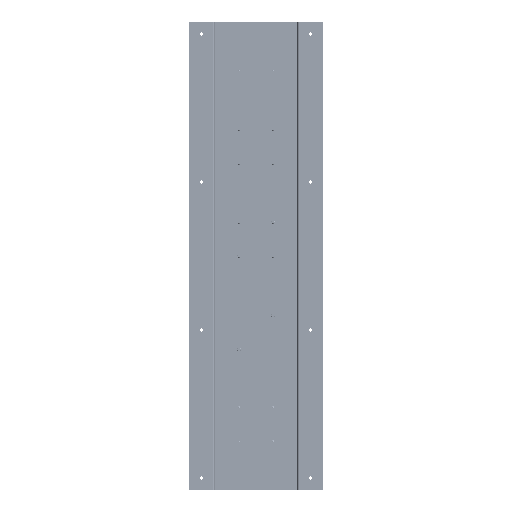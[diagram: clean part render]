
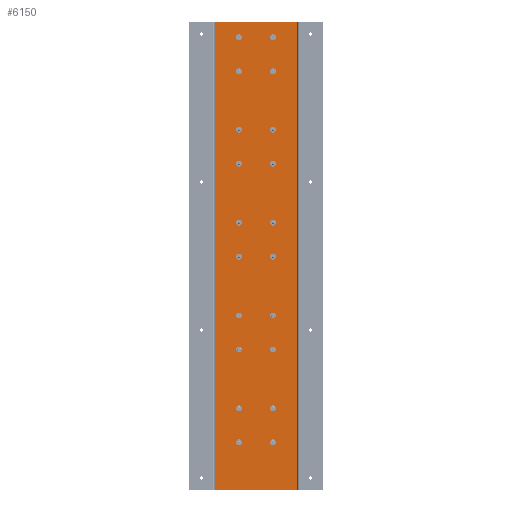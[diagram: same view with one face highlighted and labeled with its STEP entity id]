
A CAD part, front view. The second image highlights one B-rep face of the part: STEP entity #6150.
In plain terms, the highlighted planar face has unit normal (0, -1, 0).
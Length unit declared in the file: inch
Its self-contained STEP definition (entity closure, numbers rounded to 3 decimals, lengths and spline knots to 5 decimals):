
#6150 = ADVANCED_FACE ( 'NONE', ( #123281 ), #227708, .F. ) ;
#15054 = DIRECTION ( 'NONE',  ( 0., 1., 0. ) ) ;
#21622 = VERTEX_POINT ( 'NONE', #85476 ) ;
#23982 = ORIENTED_EDGE ( 'NONE', *, *, #48019, .F. ) ;
#28557 = ORIENTED_EDGE ( 'NONE', *, *, #33636, .T. ) ;
#33334 = CARTESIAN_POINT ( 'NONE',  ( 5.025, 5.125, 45. ) ) ;
#33636 = EDGE_CURVE ( 'NONE', #217864, #213585, #56719, .T. ) ;
#41384 = CARTESIAN_POINT ( 'NONE',  ( 5.125, 5.125, 45. ) ) ;
#47230 = VERTEX_POINT ( 'NONE', #33334 ) ;
#48019 = EDGE_CURVE ( 'NONE', #217864, #47230, #147458, .T. ) ;
#48966 = CARTESIAN_POINT ( 'NONE',  ( 5.025, 5.125, 45. ) ) ;
#52346 = ORIENTED_EDGE ( 'NONE', *, *, #152013, .T. ) ;
#52629 = CARTESIAN_POINT ( 'NONE',  ( -5.025, 5.125, 45. ) ) ;
#52990 = VECTOR ( 'NONE', #147717, 39.37008 ) ;
#56719 = LINE ( 'NONE', #160081, #176034 ) ;
#85476 = CARTESIAN_POINT ( 'NONE',  ( 5.025, 5.125, -13. ) ) ;
#103634 = CARTESIAN_POINT ( 'NONE',  ( 5.125, 5.125, 45. ) ) ;
#123018 = LINE ( 'NONE', #180356, #211795 ) ;
#123281 = FACE_OUTER_BOUND ( 'NONE', #130593, .T. ) ;
#130593 = EDGE_LOOP ( 'NONE', ( #28557, #52346, #193892, #23982 ) ) ;
#139303 = DIRECTION ( 'NONE',  ( -1., 0., 0. ) ) ;
#142962 = DIRECTION ( 'NONE',  ( 0., 0., -1. ) ) ;
#147342 = EDGE_CURVE ( 'NONE', #47230, #21622, #224999, .T. ) ;
#147458 = LINE ( 'NONE', #41384, #52990 ) ;
#147717 = DIRECTION ( 'NONE',  ( 1., 0., 0. ) ) ;
#152013 = EDGE_CURVE ( 'NONE', #213585, #21622, #123018, .T. ) ;
#160081 = CARTESIAN_POINT ( 'NONE',  ( -5.025, 5.125, 45. ) ) ;
#176034 = VECTOR ( 'NONE', #142962, 39.37008 ) ;
#177863 = VECTOR ( 'NONE', #189467, 39.37008 ) ;
#180356 = CARTESIAN_POINT ( 'NONE',  ( 5.125, 5.125, -13. ) ) ;
#181433 = CARTESIAN_POINT ( 'NONE',  ( -5.025, 5.125, -13. ) ) ;
#186099 = AXIS2_PLACEMENT_3D ( 'NONE', #103634, #15054, #139303 ) ;
#189467 = DIRECTION ( 'NONE',  ( 0., 0., -1. ) ) ;
#193892 = ORIENTED_EDGE ( 'NONE', *, *, #147342, .F. ) ;
#211795 = VECTOR ( 'NONE', #218282, 39.37008 ) ;
#213585 = VERTEX_POINT ( 'NONE', #181433 ) ;
#217864 = VERTEX_POINT ( 'NONE', #52629 ) ;
#218282 = DIRECTION ( 'NONE',  ( 1., 0., 0. ) ) ;
#224999 = LINE ( 'NONE', #48966, #177863 ) ;
#227708 = PLANE ( 'NONE',  #186099 ) ;
